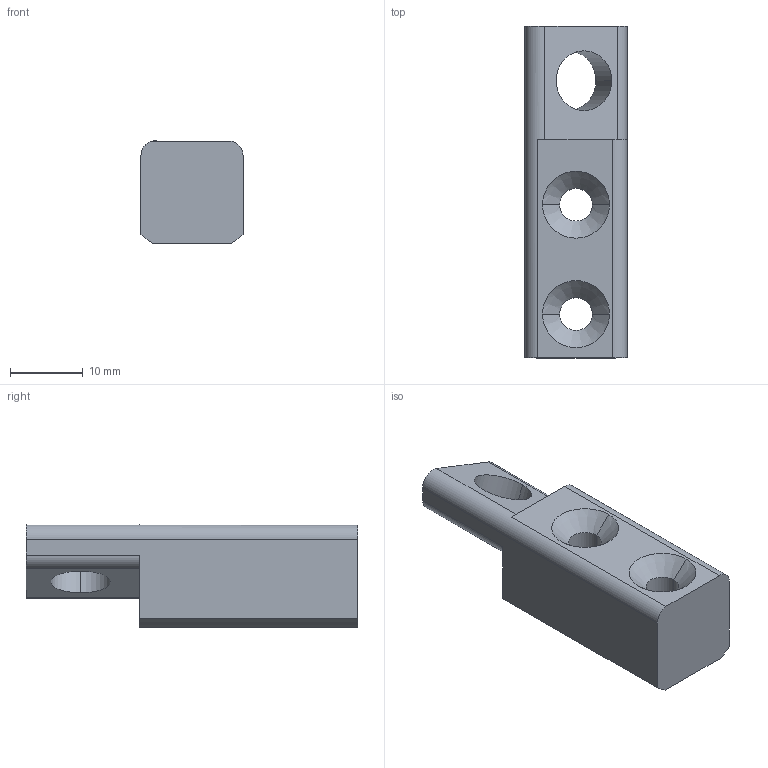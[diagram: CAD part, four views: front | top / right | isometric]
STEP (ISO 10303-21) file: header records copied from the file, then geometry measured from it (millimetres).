
FILE_DESCRIPTION (( 'STEP AP203' ), '1' );
FILE_NAME ('SH360110-Sensorhalter.STEP', '2018-09-24T13:37:48', ( '' ), ( '' ), 'SwSTEP 2.0', 'SolidWorks 2016', '' );
FILE_SCHEMA (( 'CONFIG_CONTROL_DESIGN' ));
Length unit declared in the file: millimetre
Products named in the file (1): SH360110-Sensorhalter
Bounding box: 14 x 45.5 x 14.02 mm (x, y, z)
Volume: 6237 mm3; surface area: 2917.9 mm2
Topology: 1 solids, 1 shells, 29 faces, 76 edges, 49 vertices
Faces by surface type: cylinder 14, plane 11, cone 4
Entity records: 993 total; most frequent: DIRECTION 170, CARTESIAN_POINT 155, ORIENTED_EDGE 152, EDGE_CURVE 76, AXIS2_PLACEMENT_3D 64, VERTEX_POINT 49, LINE 42, VECTOR 42
